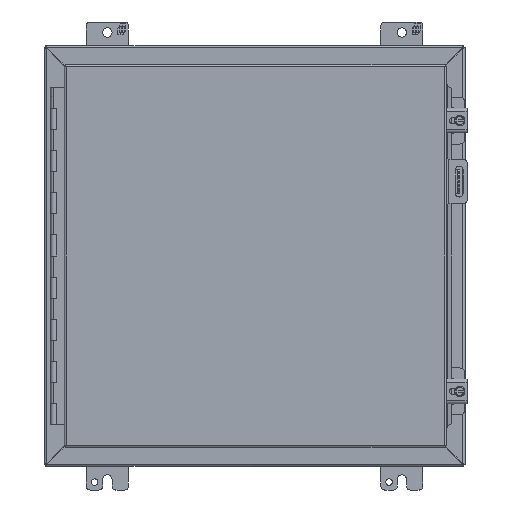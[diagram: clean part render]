
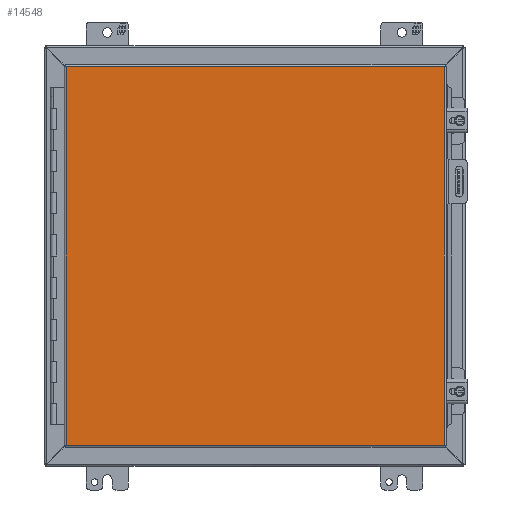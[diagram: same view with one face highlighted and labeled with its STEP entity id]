
A CAD part, front view. The second image highlights one B-rep face of the part: STEP entity #14548.
In plain terms, the highlighted planar face has unit normal (0, -1, 0).
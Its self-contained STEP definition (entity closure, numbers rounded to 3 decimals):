
#1176=LINE('',#21594,#2569);
#1177=LINE('',#21597,#2570);
#1178=LINE('',#21599,#2571);
#1179=LINE('',#21601,#2572);
#2569=VECTOR('',#17643,1000.);
#2570=VECTOR('',#17644,1000.);
#2571=VECTOR('',#17645,1000.);
#2572=VECTOR('',#17646,1000.);
#5130=ORIENTED_EDGE('',*,*,#8704,.T.);
#5131=ORIENTED_EDGE('',*,*,#8705,.T.);
#5132=ORIENTED_EDGE('',*,*,#8706,.T.);
#5133=ORIENTED_EDGE('',*,*,#8707,.T.);
#8704=EDGE_CURVE('',#10580,#10581,#1176,.T.);
#8705=EDGE_CURVE('',#10581,#10582,#1177,.T.);
#8706=EDGE_CURVE('',#10582,#10583,#1178,.T.);
#8707=EDGE_CURVE('',#10583,#10580,#1179,.T.);
#10580=VERTEX_POINT('',#21595);
#10581=VERTEX_POINT('',#21596);
#10582=VERTEX_POINT('',#21598);
#10583=VERTEX_POINT('',#21600);
#12178=EDGE_LOOP('',(#5130,#5131,#5132,#5133));
#13111=FACE_BOUND('',#12178,.T.);
#13925=PLANE('',#15647);
#14548=ADVANCED_FACE('',(#13111),#13925,.T.);
#15647=AXIS2_PLACEMENT_3D('',#21593,#17641,#17642);
#17641=DIRECTION('',(0.,-1.,0.));
#17642=DIRECTION('',(0.,0.,-1.));
#17643=DIRECTION('',(0.,0.,-1.));
#17644=DIRECTION('',(1.,0.,0.));
#17645=DIRECTION('',(0.,0.,1.));
#17646=DIRECTION('',(-1.,0.,0.));
#21593=CARTESIAN_POINT('',(-228.244,0.,-228.46));
#21594=CARTESIAN_POINT('',(-228.244,0.,228.46));
#21595=CARTESIAN_POINT('',(-228.244,0.,228.46));
#21596=CARTESIAN_POINT('',(-228.244,0.,-228.46));
#21597=CARTESIAN_POINT('',(-228.244,0.,-228.46));
#21598=CARTESIAN_POINT('',(228.244,0.,-228.46));
#21599=CARTESIAN_POINT('',(228.244,0.,-228.46));
#21600=CARTESIAN_POINT('',(228.244,0.,228.46));
#21601=CARTESIAN_POINT('',(228.244,0.,228.46));
